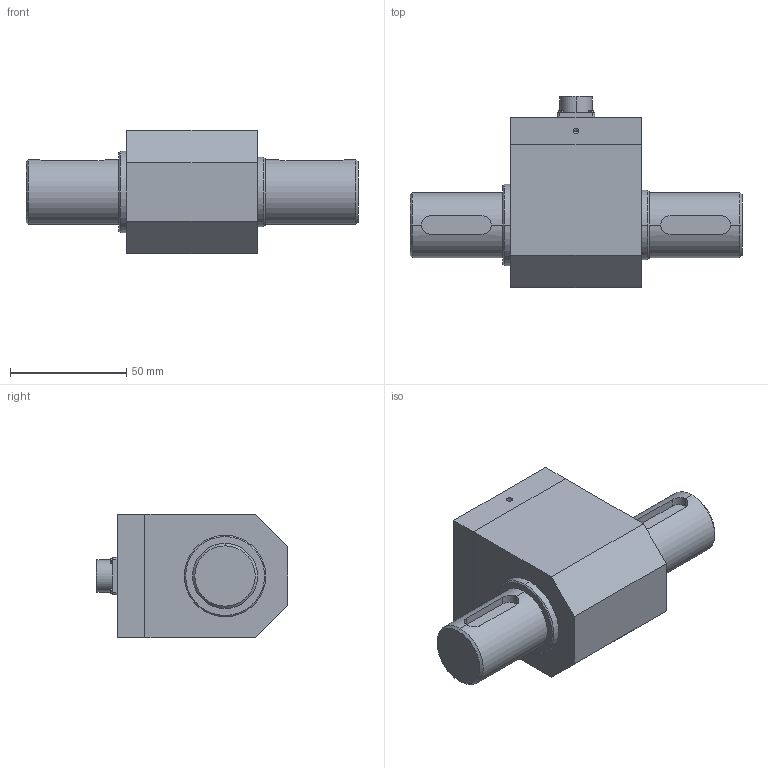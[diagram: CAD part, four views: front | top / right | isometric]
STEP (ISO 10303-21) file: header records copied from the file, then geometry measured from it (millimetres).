
FILE_DESCRIPTION (( 'STEP AP214' ), '1' );
FILE_NAME ('1050B俋倛芞.STEP', '2020-01-10T01:44:28', ( '' ), ( '' ), 'SwSTEP 2.0', 'SolidWorks 2014', '' );
FILE_SCHEMA (( 'AUTOMOTIVE_DESIGN' ));
Length unit declared in the file: millimetre
Products named in the file (1): 1050B俋倛芞
Bounding box: 143 x 82.5 x 53 mm (x, y, z)
Volume: 260876 mm3; surface area: 36562.6 mm2
Topology: 7 solids, 7 shells, 276 faces, 655 edges, 414 vertices
Faces by surface type: plane 151, cylinder 65, cone 34, torus 26
Entity records: 8516 total; most frequent: CARTESIAN_POINT 1656, DIRECTION 1382, ORIENTED_EDGE 1302, EDGE_CURVE 651, AXIS2_PLACEMENT_3D 500, VERTEX_POINT 414, VECTOR 382, LINE 382
